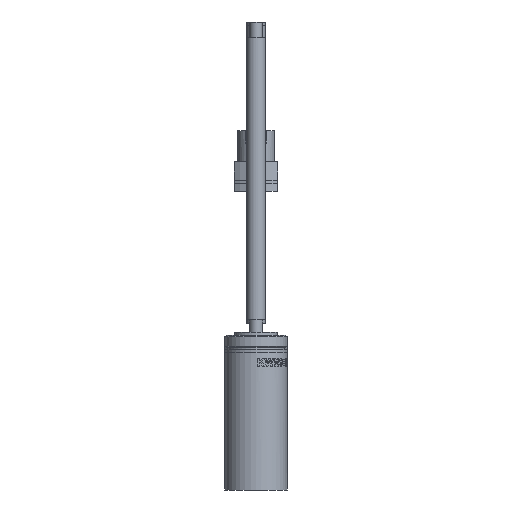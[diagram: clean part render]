
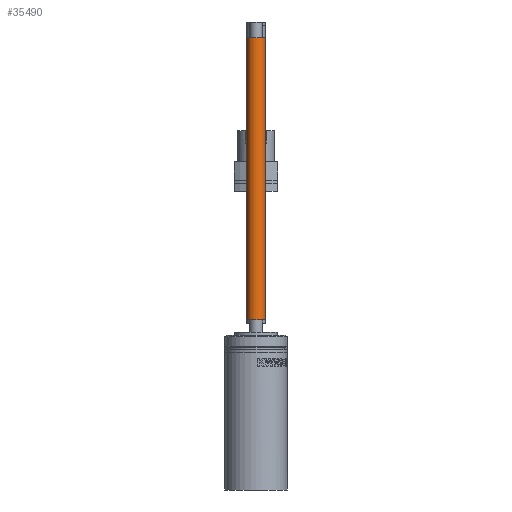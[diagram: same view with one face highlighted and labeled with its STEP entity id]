
A CAD part, left-side view. The second image highlights one B-rep face of the part: STEP entity #35490.
In plain terms, the highlighted cylindrical face has radius 1.5 mm (diameter 3 mm), a full revolution.
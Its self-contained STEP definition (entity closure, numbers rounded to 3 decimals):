
#35490=ADVANCED_FACE('',(#38256,#38257),#36236,.T.);
#36236=CYLINDRICAL_SURFACE('',#85391,1.5);
#38256=FACE_BOUND('',#43264,.T.);
#38257=FACE_BOUND('',#43265,.T.);
#43264=EDGE_LOOP('',(#60812));
#43265=EDGE_LOOP('',(#60813));
#60812=ORIENTED_EDGE('',*,*,#75742,.F.);
#60813=ORIENTED_EDGE('',*,*,#75741,.F.);
#66967=VERTEX_POINT('',#177741);
#66968=VERTEX_POINT('',#177744);
#75741=EDGE_CURVE('',#66967,#66967,#77688,.T.);
#75742=EDGE_CURVE('',#66968,#66968,#77689,.T.);
#77688=CIRCLE('',#85388,1.5);
#77689=CIRCLE('',#85390,1.5);
#85388=AXIS2_PLACEMENT_3D('',#177740,#97202,#97203);
#85390=AXIS2_PLACEMENT_3D('',#177743,#97206,#97207);
#85391=AXIS2_PLACEMENT_3D('',#177745,#97208,#97209);
#97202=DIRECTION('',(0.,0.,1.));
#97203=DIRECTION('',(-1.,0.,0.));
#97206=DIRECTION('',(0.,0.,-1.));
#97207=DIRECTION('',(-1.,0.,0.));
#97208=DIRECTION('',(0.,0.,-1.));
#97209=DIRECTION('',(-1.,0.,0.));
#177740=CARTESIAN_POINT('',(-186.,0.,72.9));
#177741=CARTESIAN_POINT('',(-187.5,0.,72.9));
#177743=CARTESIAN_POINT('',(-186.,0.,27.4));
#177744=CARTESIAN_POINT('',(-187.5,0.,27.4));
#177745=CARTESIAN_POINT('',(-186.,0.,24.9));
